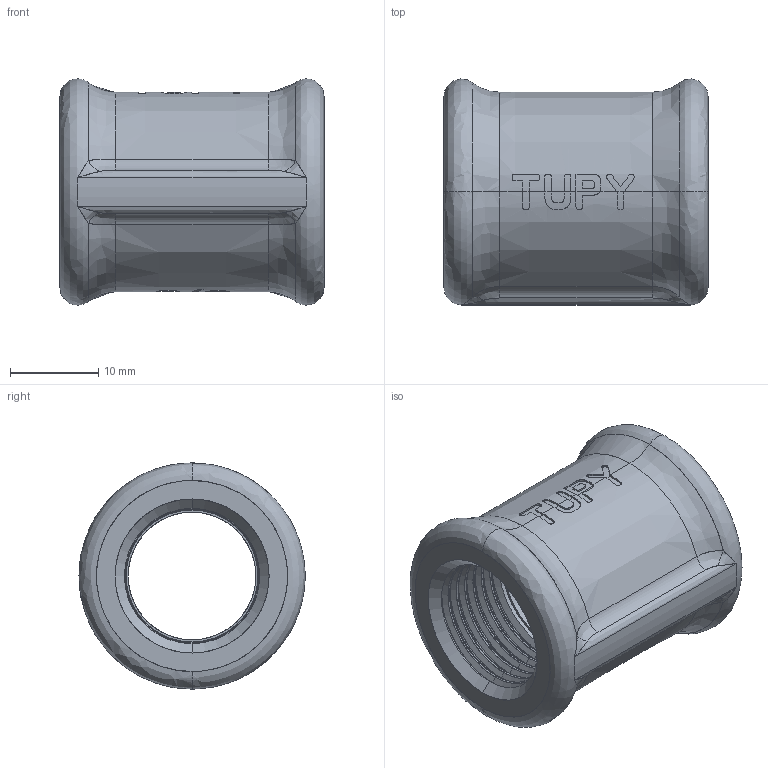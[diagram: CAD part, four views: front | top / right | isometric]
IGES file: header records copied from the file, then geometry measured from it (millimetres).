
Start section: SolidWorks IGES file using analytic representation for surfaces
Global section: file name: C:\Users\Joel Rosa\Desktop\Tubulação\12-36-OK\12-36-003.IGS; native system: SolidWorks 2011; preprocessor: SolidWorks 2011; author: Joel Rosa; date: 131216.195455; units: millimetre
Bounding box: 30 x 25.69 x 25.7 mm (x, y, z)
Surface area: 4916.9 mm2 (no closed solid volume)
Topology: 0 solids, 0 shells, 287 faces, 2915 edges, 2915 vertices
Faces by surface type: bspline 197, revolution 90
